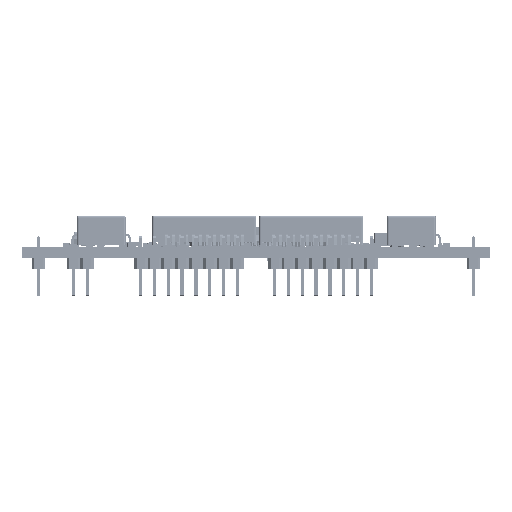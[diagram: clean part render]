
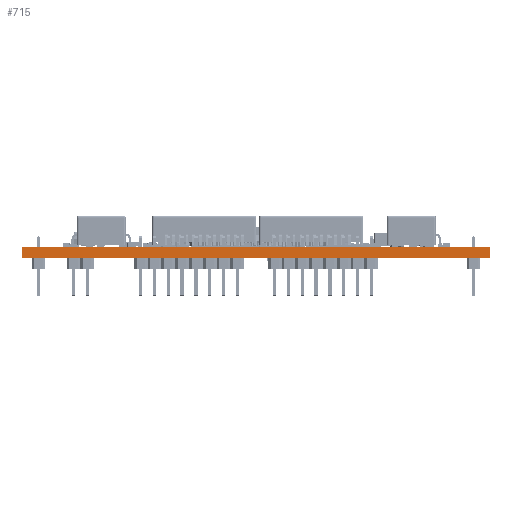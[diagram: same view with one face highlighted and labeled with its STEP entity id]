
A CAD part, front view. The second image highlights one B-rep face of the part: STEP entity #715.
In plain terms, the highlighted planar face has unit normal (0, -1, 0).
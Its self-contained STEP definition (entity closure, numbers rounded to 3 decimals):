
#690 = VERTEX_POINT('',#691);
#691 = CARTESIAN_POINT('',(67.887,0.113,1.6
    ));
#697 = EDGE_CURVE('',#698,#690,#700,.T.);
#698 = VERTEX_POINT('',#699);
#699 = CARTESIAN_POINT('',(67.887,0.113,0.));
#700 = LINE('',#701,#702);
#701 = CARTESIAN_POINT('',(67.887,0.113,0.));
#702 = VECTOR('',#703,1.);
#703 = DIRECTION('',(0.,0.,1.));
#715 = ADVANCED_FACE('',(#716),#741,.T.);
#716 = FACE_BOUND('',#717,.T.);
#717 = EDGE_LOOP('',(#718,#719,#727,#735));
#718 = ORIENTED_EDGE('',*,*,#697,.T.);
#719 = ORIENTED_EDGE('',*,*,#720,.T.);
#720 = EDGE_CURVE('',#690,#721,#723,.T.);
#721 = VERTEX_POINT('',#722);
#722 = CARTESIAN_POINT('',(0.113,0.113,1.6)
  );
#723 = LINE('',#724,#725);
#724 = CARTESIAN_POINT('',(67.887,0.113,1.6
    ));
#725 = VECTOR('',#726,1.);
#726 = DIRECTION('',(-1.,0.,0.));
#727 = ORIENTED_EDGE('',*,*,#728,.F.);
#728 = EDGE_CURVE('',#729,#721,#731,.T.);
#729 = VERTEX_POINT('',#730);
#730 = CARTESIAN_POINT('',(0.113,0.113,0.));
#731 = LINE('',#732,#733);
#732 = CARTESIAN_POINT('',(0.113,0.113,0.));
#733 = VECTOR('',#734,1.);
#734 = DIRECTION('',(0.,0.,1.));
#735 = ORIENTED_EDGE('',*,*,#736,.F.);
#736 = EDGE_CURVE('',#698,#729,#737,.T.);
#737 = LINE('',#738,#739);
#738 = CARTESIAN_POINT('',(67.887,0.113,0.));
#739 = VECTOR('',#740,1.);
#740 = DIRECTION('',(-1.,0.,0.));
#741 = PLANE('',#742);
#742 = AXIS2_PLACEMENT_3D('',#743,#744,#745);
#743 = CARTESIAN_POINT('',(67.887,0.113,0.));
#744 = DIRECTION('',(0.,-1.,0.));
#745 = DIRECTION('',(-1.,0.,0.));
